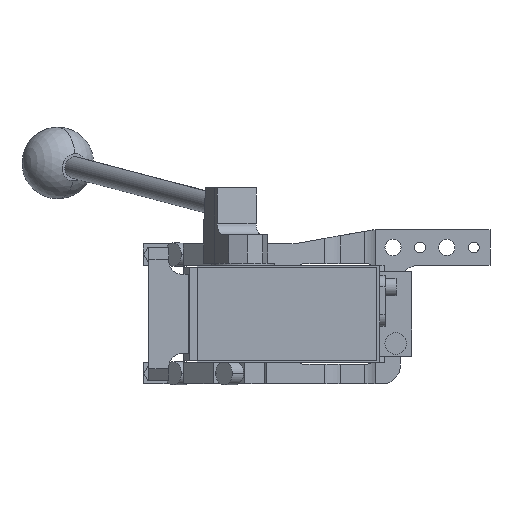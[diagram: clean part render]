
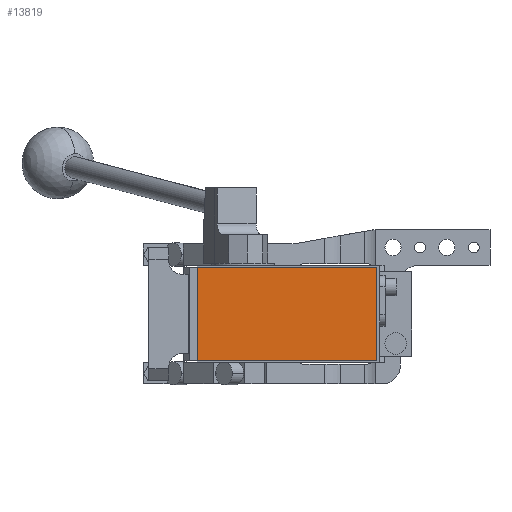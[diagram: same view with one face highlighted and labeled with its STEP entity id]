
A CAD part, front view. The second image highlights one B-rep face of the part: STEP entity #13819.
In plain terms, the highlighted planar face has unit normal (0, -1, 0).
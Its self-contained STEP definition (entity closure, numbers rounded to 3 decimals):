
#235 = CARTESIAN_POINT ( 'NONE',  ( -19., -286.5, 26. ) ) ;
#1358 = ORIENTED_EDGE ( 'NONE', *, *, #5563, .T. ) ;
#2289 = AXIS2_PLACEMENT_3D ( 'NONE', #13442, #7105, #3180 ) ;
#3180 = DIRECTION ( 'NONE',  ( 0., 0., -1. ) ) ;
#3260 = PLANE ( 'NONE',  #2289 ) ;
#3262 = VECTOR ( 'NONE', #9770, 1000. ) ;
#3415 = VERTEX_POINT ( 'NONE', #4086 ) ;
#3567 = DIRECTION ( 'NONE',  ( 0., 0., 1. ) ) ;
#3889 = VECTOR ( 'NONE', #13871, 1000. ) ;
#4086 = CARTESIAN_POINT ( 'NONE',  ( -19., -286.5, -26. ) ) ;
#4189 = ORIENTED_EDGE ( 'NONE', *, *, #7707, .T. ) ;
#4858 = ORIENTED_EDGE ( 'NONE', *, *, #8346, .T. ) ;
#5467 = VERTEX_POINT ( 'NONE', #8513 ) ;
#5563 = EDGE_CURVE ( 'NONE', #10134, #3415, #11468, .T. ) ;
#5736 = VECTOR ( 'NONE', #3567, 1000. ) ;
#5930 = CARTESIAN_POINT ( 'NONE',  ( 81., -286.5, 26. ) ) ;
#7105 = DIRECTION ( 'NONE',  ( 0., -1., 0. ) ) ;
#7707 = EDGE_CURVE ( 'NONE', #12158, #10134, #10201, .T. ) ;
#8346 = EDGE_CURVE ( 'NONE', #5467, #12158, #8406, .T. ) ;
#8406 = LINE ( 'NONE', #5930, #5736 ) ;
#8437 = EDGE_LOOP ( 'NONE', ( #1358, #12085, #4858, #4189 ) ) ;
#8513 = CARTESIAN_POINT ( 'NONE',  ( 81., -286.5, -26. ) ) ;
#9770 = DIRECTION ( 'NONE',  ( 1., 0., 0. ) ) ;
#9846 = CARTESIAN_POINT ( 'NONE',  ( -19., -286.5, -26. ) ) ;
#10134 = VERTEX_POINT ( 'NONE', #13120 ) ;
#10201 = LINE ( 'NONE', #11602, #15988 ) ;
#11348 = LINE ( 'NONE', #9846, #3262 ) ;
#11468 = LINE ( 'NONE', #235, #3889 ) ;
#11602 = CARTESIAN_POINT ( 'NONE',  ( -19., -286.5, 26. ) ) ;
#12019 = EDGE_CURVE ( 'NONE', #3415, #5467, #11348, .T. ) ;
#12085 = ORIENTED_EDGE ( 'NONE', *, *, #12019, .T. ) ;
#12158 = VERTEX_POINT ( 'NONE', #14486 ) ;
#13119 = FACE_OUTER_BOUND ( 'NONE', #8437, .T. ) ;
#13120 = CARTESIAN_POINT ( 'NONE',  ( -19., -286.5, 26. ) ) ;
#13442 = CARTESIAN_POINT ( 'NONE',  ( 0., -286.5, 0. ) ) ;
#13819 = ADVANCED_FACE ( 'NONE', ( #13119 ), #3260, .T. ) ;
#13849 = DIRECTION ( 'NONE',  ( -1., 0., 0. ) ) ;
#13871 = DIRECTION ( 'NONE',  ( 0., 0., -1. ) ) ;
#14486 = CARTESIAN_POINT ( 'NONE',  ( 81., -286.5, 26. ) ) ;
#15988 = VECTOR ( 'NONE', #13849, 1000. ) ;
